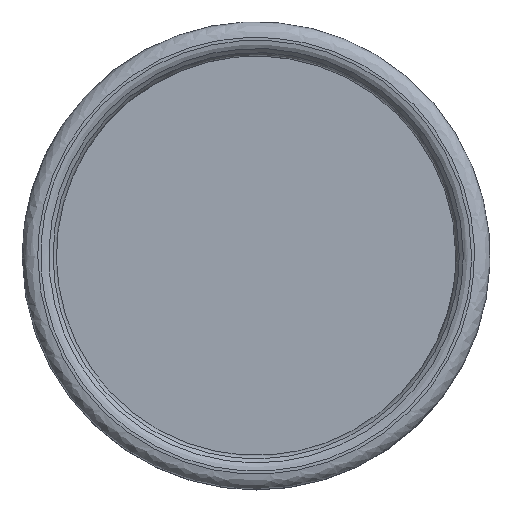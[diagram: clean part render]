
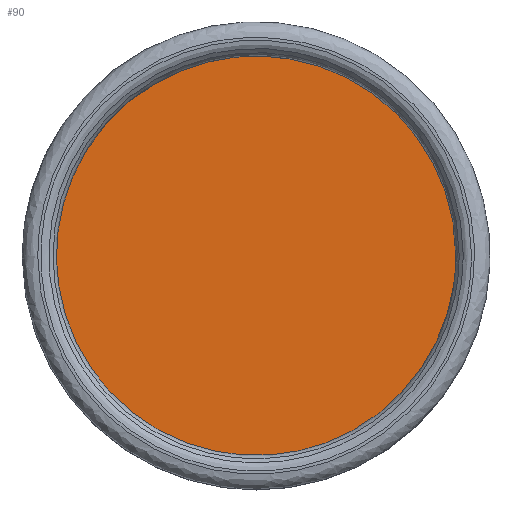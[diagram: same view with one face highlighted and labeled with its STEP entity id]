
A CAD part, top view. The second image highlights one B-rep face of the part: STEP entity #90.
In plain terms, the highlighted planar face has unit normal (0, 0, 1).
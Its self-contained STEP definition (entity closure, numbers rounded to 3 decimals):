
#90=ADVANCED_FACE('',(#172),#1081,.T.);
#172=FACE_OUTER_BOUND('',#254,.T.);
#254=EDGE_LOOP('',(#566));
#566=ORIENTED_EDGE('',*,*,#736,.T.);
#736=EDGE_CURVE('',#1006,#1006,#898,.T.);
#898=(
BOUNDED_CURVE()
B_SPLINE_CURVE(2,(#2234,#2235,#2236,#2237,#2238,#2239,#2240,#2241,#2242),
 .UNSPECIFIED.,.T.,.F.)
B_SPLINE_CURVE_WITH_KNOTS((3,2,2,2,3),(0.,40.212,80.425,
120.637,160.85),.UNSPECIFIED.)
CURVE()
GEOMETRIC_REPRESENTATION_ITEM()
RATIONAL_B_SPLINE_CURVE((1.,0.707,1.,0.707,1.,0.707,
1.,0.707,1.))
REPRESENTATION_ITEM('')
);
#1006=VERTEX_POINT('',#1666);
#1081=PLANE('',#1149);
#1149=AXIS2_PLACEMENT_3D('',#1493,#1201,$);
#1201=DIRECTION('',(0.,0.,1.));
#1493=CARTESIAN_POINT('',(26.112,26.112,34.4));
#1666=CARTESIAN_POINT('',(25.6,0.,34.4));
#2234=CARTESIAN_POINT('',(25.6,0.,34.4));
#2235=CARTESIAN_POINT('',(25.6,25.6,34.4));
#2236=CARTESIAN_POINT('',(0.,25.6,34.4));
#2237=CARTESIAN_POINT('',(-25.6,25.6,34.4));
#2238=CARTESIAN_POINT('',(-25.6,0.,34.4));
#2239=CARTESIAN_POINT('',(-25.6,-25.6,34.4));
#2240=CARTESIAN_POINT('',(0.,-25.6,34.4));
#2241=CARTESIAN_POINT('',(25.6,-25.6,34.4));
#2242=CARTESIAN_POINT('',(25.6,0.,34.4));
